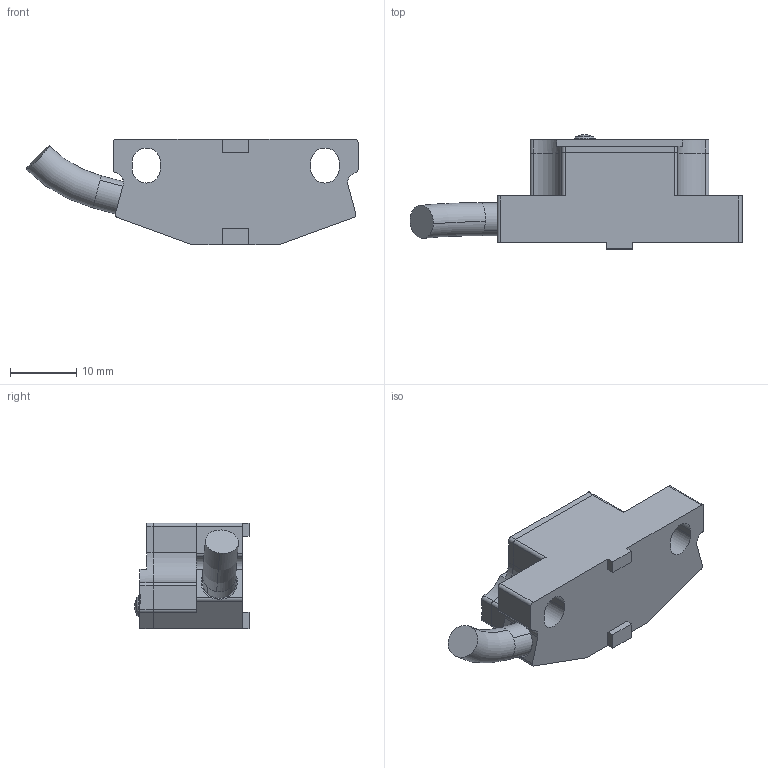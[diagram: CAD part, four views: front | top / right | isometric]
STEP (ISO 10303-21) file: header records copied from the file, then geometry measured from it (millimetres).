
FILE_DESCRIPTION (( 'STEP AP214' ), '1' );
FILE_NAME ('SE31_readhead_1_cab_left.step', '2021-03-12T13:45:51', ( '' ), ( '' ), 'SwSTEP 2.0', 'SolidWorks 2020', '' );
FILE_SCHEMA (( 'AUTOMOTIVE_DESIGN' ));
Length unit declared in the file: millimetre
Products named in the file (1): SE31_readhead_1_cab_left
Bounding box: 50.18 x 17.25 x 16 mm (x, y, z)
Surface area: 3612.5 mm2 (no closed solid volume)
Topology: 0 solids, 7 shells, 149 faces, 501 edges, 354 vertices
Faces by surface type: plane 87, cylinder 39, cone 13, bspline 8, torus 2
Entity records: 7981 total; most frequent: CARTESIAN_POINT 1936, DIRECTION 899, ORIENTED_EDGE 874, EDGE_CURVE 499, VERTEX_POINT 354, LINE 331, VECTOR 331, AXIS2_PLACEMENT_3D 284
